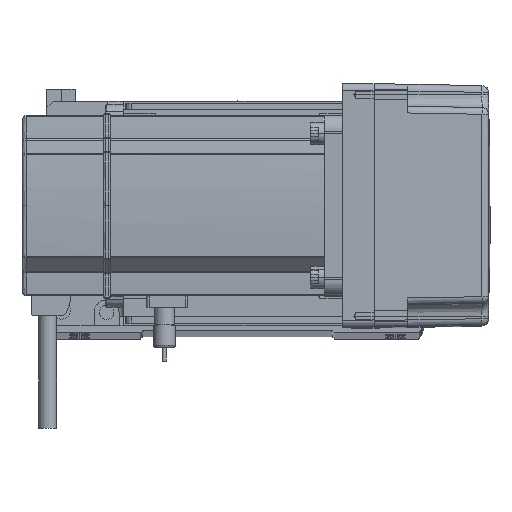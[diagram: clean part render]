
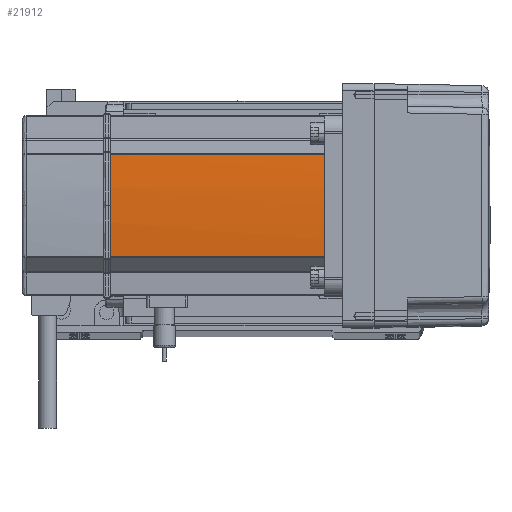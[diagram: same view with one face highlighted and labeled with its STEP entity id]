
A CAD part, top view. The second image highlights one B-rep face of the part: STEP entity #21912.
In plain terms, the highlighted cylindrical face has radius 270 mm (diameter 540 mm), a partial arc.
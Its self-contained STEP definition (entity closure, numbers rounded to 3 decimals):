
#1142 = FACE_OUTER_BOUND ( 'NONE', #45732, .T. ) ;
#2741 = CARTESIAN_POINT ( 'NONE',  ( -39.042, -22.724, 134. ) ) ;
#3956 = VERTEX_POINT ( 'NONE', #20046 ) ;
#4850 = DIRECTION ( 'NONE',  ( 0., 0., -1. ) ) ;
#7682 = CYLINDRICAL_SURFACE ( 'NONE', #13976, 270. ) ;
#7906 = VECTOR ( 'NONE', #54326, 1000. ) ;
#8598 = DIRECTION ( 'NONE',  ( 1., 0., 0. ) ) ;
#11347 = EDGE_CURVE ( 'NONE', #3956, #30751, #39545, .T. ) ;
#13976 = AXIS2_PLACEMENT_3D ( 'NONE', #31197, #40553, #17289 ) ;
#14442 = LINE ( 'NONE', #21788, #7906 ) ;
#17289 = DIRECTION ( 'NONE',  ( 1., 0., 0. ) ) ;
#17837 = CARTESIAN_POINT ( 'NONE',  ( -40., 0., 134. ) ) ;
#18481 = DIRECTION ( 'NONE',  ( 1., 0., 0. ) ) ;
#18993 = AXIS2_PLACEMENT_3D ( 'NONE', #25658, #53919, #58010 ) ;
#20046 = CARTESIAN_POINT ( 'NONE',  ( -39.042, -22.724, 39. ) ) ;
#21788 = CARTESIAN_POINT ( 'NONE',  ( -39.042, -22.724, 0. ) ) ;
#21912 = ADVANCED_FACE ( 'NONE', ( #1142 ), #7682, .T. ) ;
#22095 = ORIENTED_EDGE ( 'NONE', *, *, #55410, .T. ) ;
#22596 = ORIENTED_EDGE ( 'NONE', *, *, #48067, .T. ) ;
#22715 = EDGE_CURVE ( 'NONE', #31720, #32734, #45528, .T. ) ;
#25658 = CARTESIAN_POINT ( 'NONE',  ( 230., 0., 39. ) ) ;
#29012 = ORIENTED_EDGE ( 'NONE', *, *, #22715, .T. ) ;
#29095 = CIRCLE ( 'NONE', #43850, 270. ) ;
#30410 = ORIENTED_EDGE ( 'NONE', *, *, #37913, .T. ) ;
#30751 = VERTEX_POINT ( 'NONE', #49631 ) ;
#31197 = CARTESIAN_POINT ( 'NONE',  ( 230., 0., 0. ) ) ;
#31720 = VERTEX_POINT ( 'NONE', #2741 ) ;
#32734 = VERTEX_POINT ( 'NONE', #17837 ) ;
#36599 = DIRECTION ( 'NONE',  ( 0., 0., -1. ) ) ;
#37913 = EDGE_CURVE ( 'NONE', #32734, #49921, #29095, .T. ) ;
#39545 = CIRCLE ( 'NONE', #18993, 270. ) ;
#40114 = VECTOR ( 'NONE', #36599, 1000. ) ;
#40553 = DIRECTION ( 'NONE',  ( 0., 0., 1. ) ) ;
#40715 = CARTESIAN_POINT ( 'NONE',  ( -39.042, 22.724, 0. ) ) ;
#41604 = CARTESIAN_POINT ( 'NONE',  ( -39.042, 22.724, 134. ) ) ;
#41826 = CARTESIAN_POINT ( 'NONE',  ( 230., 0., 134. ) ) ;
#43850 = AXIS2_PLACEMENT_3D ( 'NONE', #41826, #55062, #8598 ) ;
#44260 = ORIENTED_EDGE ( 'NONE', *, *, #11347, .F. ) ;
#45528 = CIRCLE ( 'NONE', #47178, 270. ) ;
#45732 = EDGE_LOOP ( 'NONE', ( #29012, #30410, #22095, #44260, #22596 ) ) ;
#47178 = AXIS2_PLACEMENT_3D ( 'NONE', #55350, #4850, #18481 ) ;
#48067 = EDGE_CURVE ( 'NONE', #3956, #31720, #14442, .T. ) ;
#49631 = CARTESIAN_POINT ( 'NONE',  ( -39.042, 22.724, 39. ) ) ;
#49921 = VERTEX_POINT ( 'NONE', #41604 ) ;
#53919 = DIRECTION ( 'NONE',  ( 0., 0., -1. ) ) ;
#54326 = DIRECTION ( 'NONE',  ( 0., 0., 1. ) ) ;
#55062 = DIRECTION ( 'NONE',  ( 0., 0., -1. ) ) ;
#55350 = CARTESIAN_POINT ( 'NONE',  ( 230., 0., 134. ) ) ;
#55410 = EDGE_CURVE ( 'NONE', #49921, #30751, #58314, .T. ) ;
#58010 = DIRECTION ( 'NONE',  ( 1., 0., 0. ) ) ;
#58314 = LINE ( 'NONE', #40715, #40114 ) ;
